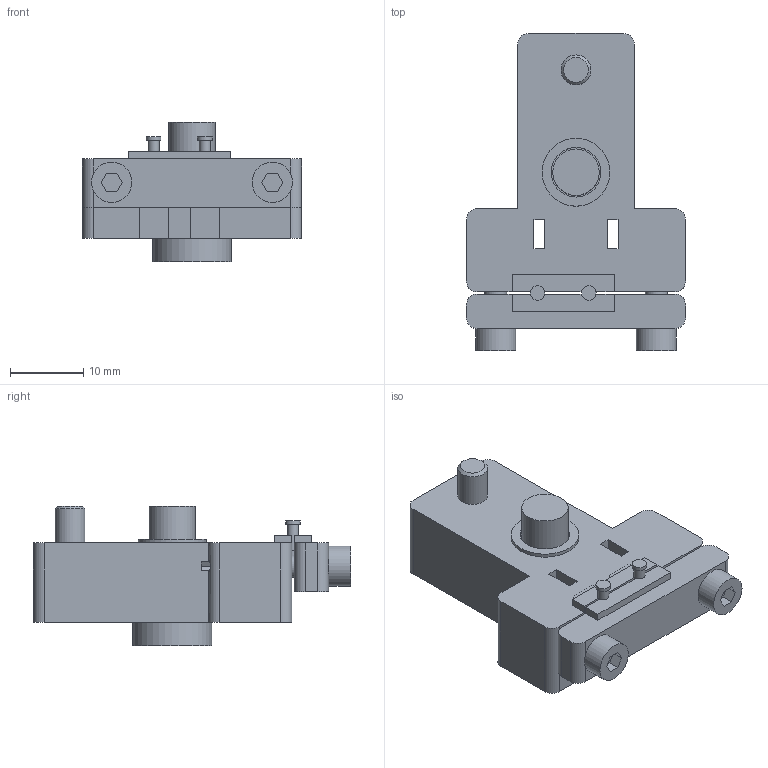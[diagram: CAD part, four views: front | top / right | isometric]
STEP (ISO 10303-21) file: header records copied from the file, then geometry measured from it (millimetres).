
FILE_DESCRIPTION(('Open CASCADE Model'),'2;1');
FILE_NAME('Open CASCADE Shape Model','2026-10-30T11:48:04',('Author'),( 'Open CASCADE'),'Open CASCADE STEP processor 7.9','Open CASCADE 7.9' ,'Unknown');
FILE_SCHEMA(('AUTOMOTIVE_DESIGN { 1 0 10303 214 1 1 1 1 }'));
Length unit declared in the file: millimetre
Products named in the file (10): ELTS_VIVE_Tracker_3_Rev_D_Open_Clamp; mount_frame; clamp_jaw; mount_screw_reference; clamp_screw_0_reference; clamp_nut_0_reference; clamp_screw_1_reference; clamp_nut_1_reference; contact_2_reference; contact_4_reference
Assembly tree (9 placements, depth 2):
  ELTS_VIVE_Tracker_3_Rev_D_Open_Clamp
    mount_frame
    clamp_jaw
    mount_screw_reference
    clamp_screw_0_reference
    clamp_nut_0_reference
    clamp_screw_1_reference
    clamp_nut_1_reference
    contact_2_reference
    contact_4_reference
Bounding box: 30 x 43.4 x 19.07 mm (x, y, z)
Volume: 8803.6 mm3; surface area: 6055.2 mm2
Topology: 9 solids, 9 shells, 162 faces, 395 edges, 263 vertices
Faces by surface type: plane 126, cylinder 35, cone 1
Full cylindrical faces by diameter (mm): 0.9 x2, 1.5 x2, 2 x2, 3 x4, 3.4 x4, 4.1 x1, 5.5 x2, 6.35 x1, 6.8 x1, 9.3 x1, 10.8 x1
Entity records: 10046 total; most frequent: CARTESIAN_POINT 1977, DIRECTION 1397, LINE 855, VECTOR 855, ORIENTED_EDGE 790, PCURVE 790, DEFINITIONAL_REPRESENTATION 790, EDGE_CURVE 395
